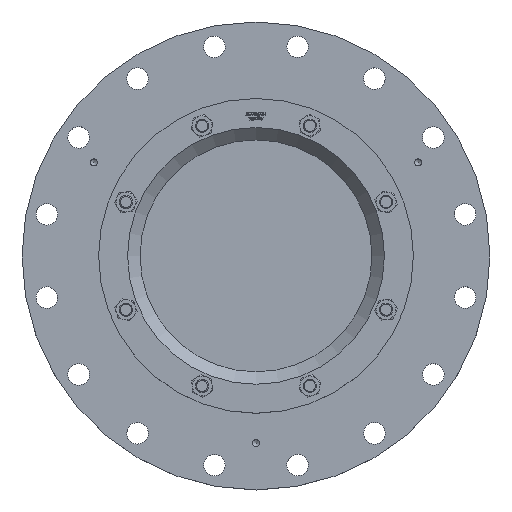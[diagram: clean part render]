
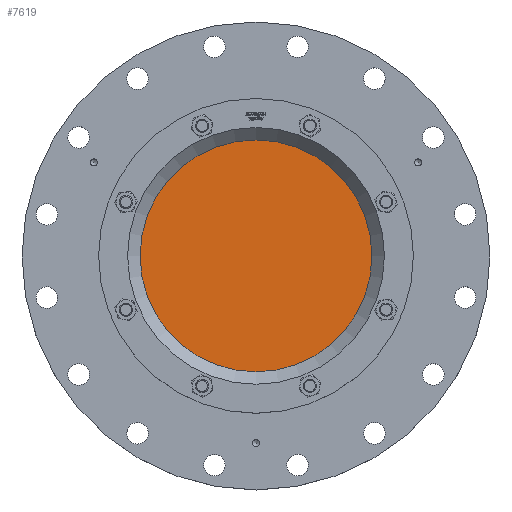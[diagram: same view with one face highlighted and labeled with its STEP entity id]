
A CAD part, top view. The second image highlights one B-rep face of the part: STEP entity #7619.
In plain terms, the highlighted planar face has unit normal (0, 0, 1).
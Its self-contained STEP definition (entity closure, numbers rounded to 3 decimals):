
#2243=FACE_OUTER_BOUND('',#2696,.T.);
#2696=EDGE_LOOP('',(#5262));
#3285=CIRCLE('',#8075,140.);
#3467=VERTEX_POINT('',#10148);
#4183=EDGE_CURVE('',#3467,#3467,#3285,.T.);
#5262=ORIENTED_EDGE('',*,*,#4183,.F.);
#7420=PLANE('',#8074);
#7619=ADVANCED_FACE('',(#2243),#7420,.F.);
#8074=AXIS2_PLACEMENT_3D('',#10147,#8603,#8604);
#8075=AXIS2_PLACEMENT_3D('',#10149,#8605,#8606);
#8603=DIRECTION('center_axis',(0.,0.,-1.));
#8604=DIRECTION('ref_axis',(-1.,0.,0.));
#8605=DIRECTION('center_axis',(0.,0.,-1.));
#8606=DIRECTION('ref_axis',(-1.,0.,0.));
#10147=CARTESIAN_POINT('Origin',(0.,0.,93.));
#10148=CARTESIAN_POINT('',(140.,0.,93.));
#10149=CARTESIAN_POINT('Origin',(0.,0.,93.));
